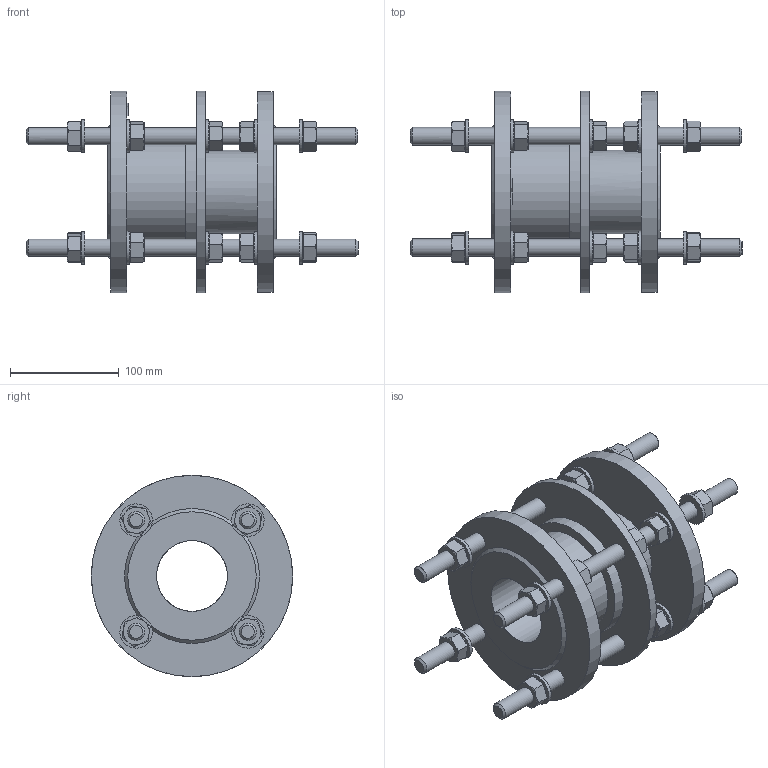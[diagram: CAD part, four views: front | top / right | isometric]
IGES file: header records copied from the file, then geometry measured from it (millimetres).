
Start section: SolidWorks IGES file using analytic representation for surfaces
Global section: file name: \\avksan2\techshare\PBM outline export from Enovia\O_265_910_DN65_1XXXXX00_L=155_REV01.igs; native system: SolidWorks 2022; preprocessor: SolidWorks 2022; author: pbm; date: 241011.100433; units: millimetre
Bounding box: 305 x 185 x 185 mm (x, y, z)
Surface area: 287214.7 mm2 (no closed solid volume)
Topology: 0 solids, 0 shells, 547 faces, 2288 edges, 2207 vertices
Faces by surface type: bspline 344, revolution 203
